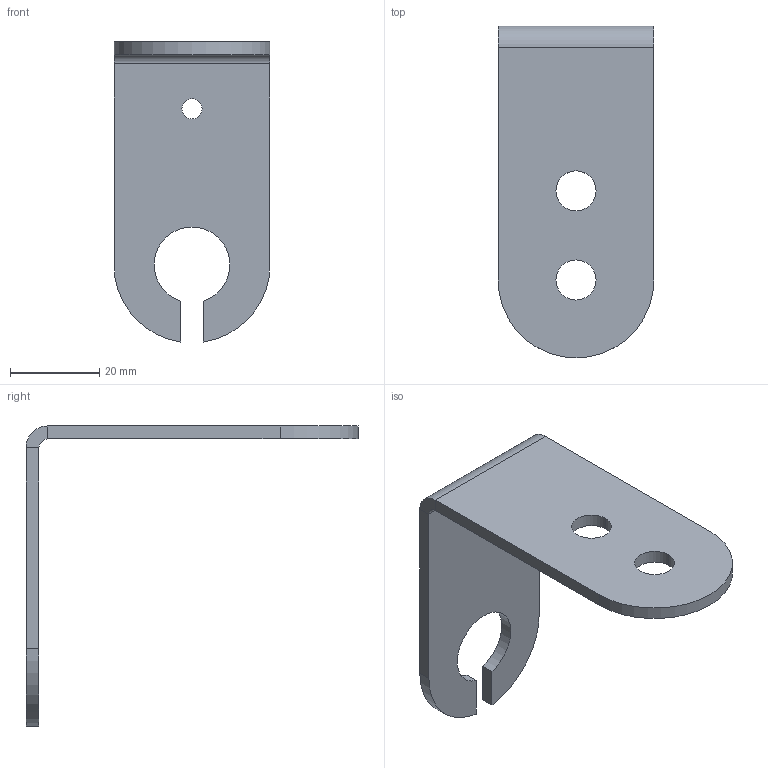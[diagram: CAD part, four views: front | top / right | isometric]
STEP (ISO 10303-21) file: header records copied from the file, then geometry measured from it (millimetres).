
FILE_DESCRIPTION (( 'STEP AP214' ), '1' );
FILE_NAME ('11443-4.STEP', '2009-07-27T14:35:54', ( ' ' ), ( ' ' ), 'SwSTEP 2.0', 'SolidWorks 2009', '' );
FILE_SCHEMA (( 'AUTOMOTIVE_DESIGN' ));
Length unit declared in the file: millimetre
Products named in the file (1): 11443-4
Bounding box: 35 x 74.5 x 67.32 mm (x, y, z)
Volume: 12001.2 mm3; surface area: 9574.7 mm2
Topology: 1 solids, 1 shells, 24 faces, 58 edges, 36 vertices
Faces by surface type: cylinder 12, plane 12
Entity records: 748 total; most frequent: DIRECTION 132, CARTESIAN_POINT 119, ORIENTED_EDGE 116, EDGE_CURVE 58, AXIS2_PLACEMENT_3D 49, VERTEX_POINT 36, VECTOR 34, LINE 34
